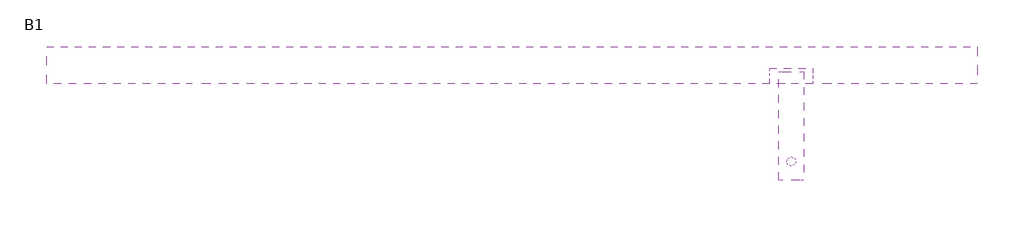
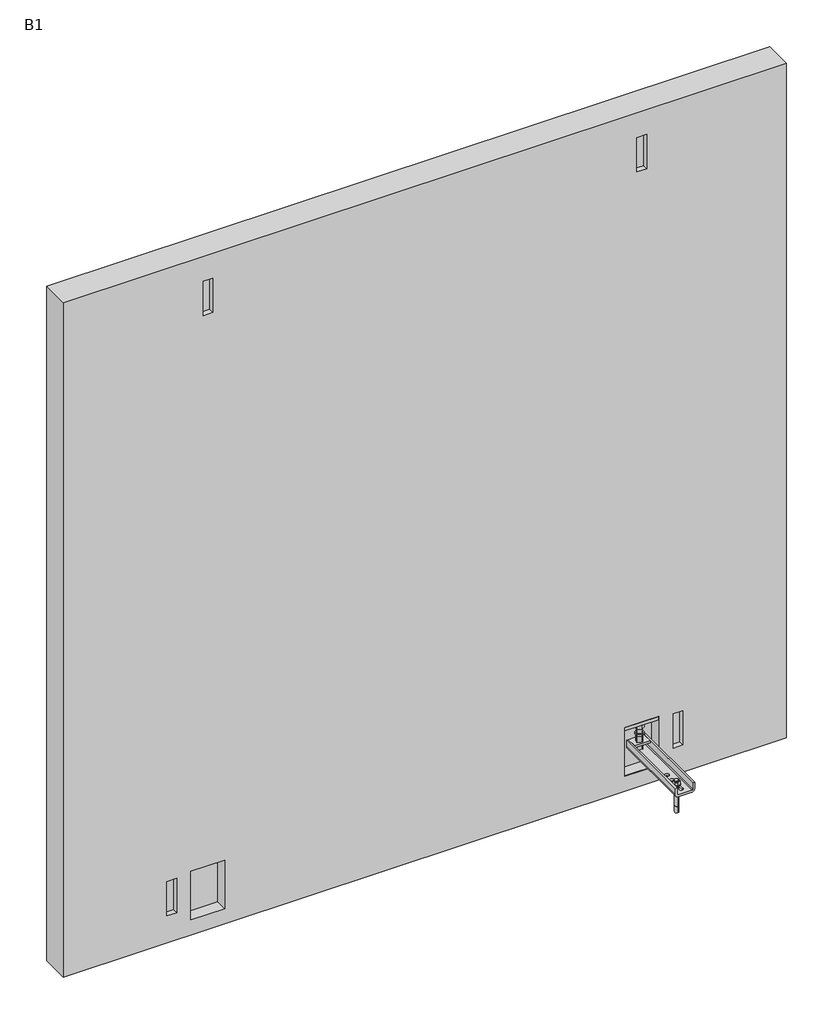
# One storey: 3 fasteners, 1 proxy.
"""IFC4 building model written with IfcOpenShell, lengths in millimetres."""

from ifc_helpers import new_model, si_unit, frame, origin, place, context, project, spatial, polyline, circle_curve, transform, mapped, element, save
from ifc_brep_helpers import plane_surface, cylinder_surface, revolved_surface, advanced_brep
from components import fastener_4d305c28, rec_aem16_140_aem16_140_c98ec31b, rec_mf45t_mf45t_64a75cb8

model = new_model("IFC4")

# Units and contexts
model_context = context("Model", 3, world=origin())
ifc_project = project(units=[si_unit("LENGTHUNIT", "METRE", prefix="MILLI")], contexts=[model_context])

# Site, building, storey
site = spatial("IfcSite", under=ifc_project)
building = spatial("IfcBuilding", under=site)
storey = spatial("IfcBuildingStorey", under=building, Name="B1", Elevation=-3000.0)

# Proxy
placement = place(None, origin())
element("IfcBuildingElementProxy", 1, Name="Panel Hormigón : Panel Hormigón", ObjectType="Panel Hormigón : Panel Hormigón", at=placement, inside=storey, context=model_context, shape_type="AdvancedBrep", body=[
    advanced_brep(
    [(4887.7202663, 16074.5302953, 2810.0), (4887.7202663, 15954.5302953, 2810.0), (7887.7202663, 15954.5302953, 2810.0), (7887.7202663, 16074.5302953, 2810.0), (4887.7202663, 16074.5302953, -150.0), (7887.7202663, 16074.5302953, -150.0), (7887.7202663, 15954.5302953, -150.0), (4887.7202663, 15954.5302953, -150.0), (5467.5702663, 15954.5302953, 2700.0), (5507.8702663, 15954.5302953, 2700.0), (5507.8702663, 15954.5302953, 2550.0), (5467.5702663, 15954.5302953, 2550.0), (7267.5702663, 15954.5302953, 2700.0), (7307.8702663, 15954.5302953, 2700.0), (7307.8702663, 15954.5302953, 2550.0), (7267.5702663, 15954.5302953, 2550.0), (5557.5892832, 15954.5302953, 129.5000155), (5557.5892832, 15954.5302953, -83.5), (5417.5892832, 15954.5302953, -83.5), (5417.5892832, 15954.5302953, 129.5000155), (7357.5892832, 15954.5302953, 129.5000155), (7357.5892832, 15954.5302953, -83.5), (7217.5892832, 15954.5302953, -83.5), (7217.5892832, 15954.5302953, 129.5000155), (5357.8702663, 15954.5302953, -30.0), (5317.5702663, 15954.5302953, -30.0), (5317.5702663, 15954.5302953, 120.0), (5357.8702663, 15954.5302953, 120.0), (7457.8702663, 15954.5302953, -30.0), (7417.5702663, 15954.5302953, -30.0), (7417.5702663, 15954.5302953, 120.0), (7457.8702663, 15954.5302953, 120.0), (5467.5702663, 15976.6051011, 2700.0), (5507.8702663, 15976.6051011, 2700.0), (5467.5702663, 15976.6051011, 2550.0), (5507.8702663, 15976.6051011, 2550.0), (7307.8702663, 15976.6051011, 2700.0), (7267.5702663, 15976.6051011, 2700.0), (7307.8702663, 15976.6051011, 2550.0), (7267.5702663, 15976.6051011, 2550.0), (5557.5892832, 15962.5302953, 137.5000155), (5557.5892832, 15997.5302953, 137.5000155), (5557.5892832, 15999.5302953, 139.5000155), (5557.5892832, 15999.5302953, 152.5000155), (5557.5892832, 16005.5302953, 152.5000155), (5557.5892832, 16005.5302953, 139.5000155), (5557.5892832, 15997.5302953, 131.5000155), (5557.5892832, 15981.9086657, 131.5000155), (5557.5892832, 16005.5302953, 93.5), (5557.5892832, 16005.5302953, -83.5), (5417.5892832, 16005.5302953, -83.5), (5417.5892832, 16005.5302953, 93.5), (5417.5892832, 15981.9086657, 131.5000155), (5417.5892832, 15997.5302953, 131.5000155), (5417.5892832, 16005.5302953, 139.5000155), (5417.5892832, 16005.5302953, 152.5000155), (5417.5892832, 15999.5302953, 152.5000155), (5417.5892832, 15999.5302953, 139.5000155), (5417.5892832, 15997.5302953, 137.5000155), (5417.5892832, 15962.5302953, 137.5000155), (7357.5892832, 15962.5302953, 137.5000155), (7357.5892832, 15997.5302953, 137.5000155), (7357.5892832, 15999.5302953, 139.5000155), (7357.5892832, 15999.5302953, 152.5000155), (7357.5892832, 16005.5302953, 152.5000155), (7357.5892832, 16005.5302953, 139.5000155), (7357.5892832, 15997.5302953, 131.5000155), (7357.5892832, 15981.9086657, 131.5000155), (7357.5892832, 16005.5302953, 93.5), (7357.5892832, 16005.5302953, -83.5), (7217.5892832, 16005.5302953, -83.5), (7217.5892832, 16005.5302953, 93.5), (7217.5892832, 15981.9086657, 131.5000155), (7217.5892832, 15997.5302953, 131.5000155), (7217.5892832, 16005.5302953, 139.5000155), (7217.5892832, 16005.5302953, 152.5000155), (7217.5892832, 15999.5302953, 152.5000155), (7217.5892832, 15999.5302953, 139.5000155), (7217.5892832, 15997.5302953, 137.5000155), (7217.5892832, 15962.5302953, 137.5000155), (5357.8702663, 15976.6051011, -30.0), (5317.5702663, 15976.6051011, -30.0), (5357.8702663, 15976.6051011, 120.0), (5317.5702663, 15976.6051011, 120.0), (7457.8702663, 15976.6051011, -30.0), (7417.5702663, 15976.6051011, -30.0), (7457.8702663, 15976.6051011, 120.0), (7417.5702663, 15976.6051011, 120.0)],
    [
        (0, 1),
        (1, 2),
        (2, 3),
        (3, 0),
        (4, 5),
        (5, 6),
        (6, 7),
        (7, 4),
        (0, 4),
        (7, 1),
        (6, 2),
        (8, 9),
        (9, 10),
        (10, 11),
        (11, 8),
        (12, 13),
        (13, 14),
        (14, 15),
        (15, 12),
        (16, 17),
        (17, 18),
        (18, 19),
        (19, 16),
        (20, 21),
        (21, 22),
        (22, 23),
        (23, 20),
        (24, 25),
        (25, 26),
        (26, 27),
        (27, 24),
        (28, 29),
        (29, 30),
        (30, 31),
        (31, 28),
        (5, 3),
        (32, 33),
        (33, 9),
        (8, 32),
        (34, 11),
        (10, 35),
        (35, 34),
        (34, 32),
        (33, 35),
        (36, 13),
        (12, 37),
        (37, 36),
        (38, 39),
        (39, 15),
        (14, 38),
        (36, 38),
        (39, 37),
        (16, 40, circle_curve(frame((5557.5892832, 15962.5302953, 129.5000155), z_axis=(-1.0, 0.0, 0.0), x_axis=(0.0, 1.0, 0.0)), 8.0)),
        (40, 41),
        (41, 42, circle_curve(frame((5557.5892832, 15997.5302953, 139.5000155), z_axis=(1.0, 0.0, 0.0), x_axis=(0.0, 1.0, 0.0)), 2.0)),
        (42, 43),
        (43, 44),
        (44, 45),
        (45, 46, circle_curve(frame((5557.5892832, 15997.5302953, 139.5000155), z_axis=(-1.0, 0.0, 0.0), x_axis=(0.0, 1.0, 0.0)), 8.0)),
        (46, 47),
        (47, 48),
        (48, 49),
        (49, 17),
        (18, 50),
        (50, 51),
        (51, 52),
        (52, 53),
        (53, 54, circle_curve(frame((5417.5892832, 15997.5302953, 139.5000155), z_axis=(1.0, 0.0, 0.0), x_axis=(0.0, 1.0, 0.0)), 8.0)),
        (54, 55),
        (55, 56),
        (56, 57),
        (57, 58, circle_curve(frame((5417.5892832, 15997.5302953, 139.5000155), z_axis=(-1.0, 0.0, 0.0), x_axis=(0.0, 1.0, 0.0)), 2.0)),
        (58, 59),
        (59, 19, circle_curve(frame((5417.5892832, 15962.5302953, 129.5000155), z_axis=(1.0, 0.0, 0.0), x_axis=(0.0, 1.0, 0.0)), 8.0)),
        (49, 50),
        (48, 51),
        (47, 52),
        (46, 53),
        (45, 54),
        (44, 55),
        (43, 56),
        (42, 57),
        (41, 58),
        (40, 59),
        (20, 60, circle_curve(frame((7357.5892832, 15962.5302953, 129.5000155), z_axis=(-1.0, 0.0, 0.0), x_axis=(0.0, 1.0, 0.0)), 8.0)),
        (60, 61),
        (61, 62, circle_curve(frame((7357.5892832, 15997.5302953, 139.5000155), z_axis=(1.0, 0.0, 0.0), x_axis=(0.0, 1.0, 0.0)), 2.0)),
        (62, 63),
        (63, 64),
        (64, 65),
        (65, 66, circle_curve(frame((7357.5892832, 15997.5302953, 139.5000155), z_axis=(-1.0, 0.0, 0.0), x_axis=(0.0, 1.0, 0.0)), 8.0)),
        (66, 67),
        (67, 68),
        (68, 69),
        (69, 21),
        (22, 70),
        (70, 71),
        (71, 72),
        (72, 73),
        (73, 74, circle_curve(frame((7217.5892832, 15997.5302953, 139.5000155), z_axis=(1.0, 0.0, 0.0), x_axis=(0.0, 1.0, 0.0)), 8.0)),
        (74, 75),
        (75, 76),
        (76, 77),
        (77, 78, circle_curve(frame((7217.5892832, 15997.5302953, 139.5000155), z_axis=(-1.0, 0.0, 0.0), x_axis=(0.0, 1.0, 0.0)), 2.0)),
        (78, 79),
        (79, 23, circle_curve(frame((7217.5892832, 15962.5302953, 129.5000155), z_axis=(1.0, 0.0, 0.0), x_axis=(0.0, 1.0, 0.0)), 8.0)),
        (69, 70),
        (68, 71),
        (67, 72),
        (66, 73),
        (65, 74),
        (64, 75),
        (63, 76),
        (62, 77),
        (61, 78),
        (60, 79),
        (80, 81),
        (81, 25),
        (24, 80),
        (82, 27),
        (26, 83),
        (83, 82),
        (82, 80),
        (81, 83),
        (84, 85),
        (85, 29),
        (28, 84),
        (86, 31),
        (30, 87),
        (87, 86),
        (86, 84),
        (85, 87),
    ],
    [
        plane_surface(frame((4887.7202663, 16074.5302953, 2810.0), z_axis=(0.0, 0.0, 1.0), x_axis=(0.0, -1.0, 0.0))),
        plane_surface(frame((4887.7202663, 16074.5302953, -150.0), z_axis=(0.0, 0.0, -1.0), x_axis=(0.0, 1.0, 0.0))),
        plane_surface(frame((4887.7202663, 16074.5302953, 2810.0), z_axis=(-1.0, 0.0, 0.0), x_axis=(0.0, 0.0, -1.0))),
        plane_surface(frame((4887.7202663, 15954.5302953, 2810.0), z_axis=(0.0, -1.0, 0.0), x_axis=(0.0, 0.0, -1.0))),
        plane_surface(frame((7887.7202663, 15954.5302953, 2810.0), z_axis=(1.0, 0.0, 0.0), x_axis=(0.0, 0.0, -1.0))),
        plane_surface(frame((7887.7202663, 16074.5302953, 2810.0), z_axis=(0.0, 1.0, 0.0), x_axis=(0.0, 0.0, -1.0))),
        plane_surface(frame((5467.5702663, 15971.6051011, 2700.0), z_axis=(0.0, 0.0, -1.0), x_axis=(0.0, -1.0, 0.0))),
        plane_surface(frame((5467.5702663, 15971.6051011, 2550.0), z_axis=(0.0, 0.0, 1.0), x_axis=(0.0, 1.0, 0.0))),
        plane_surface(frame((5467.5702663, 15976.6051011, 2700.0), z_axis=(1.0, 0.0, 0.0), x_axis=(0.0, 0.0, -1.0))),
        plane_surface(frame((5507.8702663, 15954.6051011, 2700.0), z_axis=(-1.0, 0.0, 0.0), x_axis=(0.0, 0.0, -1.0))),
        plane_surface(frame((5507.8702663, 15976.6051011, 2700.0), z_axis=(0.0, -1.0, 0.0), x_axis=(0.0, 0.0, -1.0))),
        plane_surface(frame((7307.8702663, 15971.6051011, 2700.0), z_axis=(0.0, 0.0, -1.0), x_axis=(0.0, -1.0, 0.0))),
        plane_surface(frame((7307.8702663, 15971.6051011, 2550.0), z_axis=(0.0, 0.0, 1.0), x_axis=(0.0, 1.0, 0.0))),
        plane_surface(frame((7307.8702663, 15976.6051011, 2700.0), z_axis=(-1.0, 0.0, 0.0), x_axis=(0.0, 0.0, -1.0))),
        plane_surface(frame((7267.5702663, 15954.6051011, 2700.0), z_axis=(1.0, 0.0, 0.0), x_axis=(0.0, 0.0, -1.0))),
        plane_surface(frame((7267.5702663, 15976.6051011, 2700.0), z_axis=(0.0, -1.0, 0.0), x_axis=(0.0, 0.0, -1.0))),
        plane_surface(frame((5557.5892832, 15954.5302953, -83.5), z_axis=(-1.0, 0.0, 0.0), x_axis=(0.0, 1.0, 0.0))),
        plane_surface(frame((5417.5892832, 15954.5302953, -83.5), z_axis=(1.0, 0.0, 0.0), x_axis=(0.0, -1.0, 0.0))),
        plane_surface(frame((5557.5892832, 15954.5302953, -83.5), z_axis=(0.0, 0.0, 1.0), x_axis=(-1.0, 0.0, 0.0))),
        plane_surface(frame((5557.5892832, 16005.5302953, -83.5), z_axis=(0.0, -1.0, 0.0), x_axis=(-1.0, 0.0, 0.0))),
        plane_surface(frame((5557.5892832, 16005.5302953, 93.5), z_axis=(0.0, -0.8492853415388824, -0.5279340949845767), x_axis=(-1.0, 0.0, 0.0))),
        plane_surface(frame((5557.5892832, 15981.9086657, 131.5000155), z_axis=(0.0, 0.0, 1.0), x_axis=(-1.0, 0.0, 0.0))),
        revolved_surface(polyline([(5557.5892832, 16005.5302953, 139.5000155), (5417.5892832, 16005.5302953, 139.5000155)]), (5417.5892832, 15997.5302953, 139.5000155), (1.0, 0.0, 0.0)),
        plane_surface(frame((5557.5892832, 16005.5302953, 139.5000155), z_axis=(0.0, -1.0, 0.0), x_axis=(-1.0, 0.0, 0.0))),
        plane_surface(frame((5557.5892832, 16005.5302953, 152.5000155), z_axis=(0.0, 0.0, -1.0), x_axis=(-1.0, 0.0, 0.0))),
        plane_surface(frame((5557.5892832, 15999.5302953, 152.5000155), z_axis=(0.0, 1.0, 0.0), x_axis=(-1.0, 0.0, 0.0))),
        cylinder_surface(frame((5417.5892832, 15997.5302953, 139.5000155), z_axis=(-1.0, 0.0, 0.0), x_axis=(0.0, 1.0, 0.0)), 2.0),
        plane_surface(frame((5557.5892832, 15997.5302953, 137.5000155), z_axis=(0.0, 0.0, -1.0), x_axis=(-1.0, 0.0, 0.0))),
        revolved_surface(polyline([(5557.5892832, 15970.5302953, 129.5000155), (5417.5892832, 15970.5302953, 129.5000155)]), (5417.5892832, 15962.5302953, 129.5000155), (1.0, 0.0, 0.0)),
        plane_surface(frame((7357.5892832, 15954.5302953, -83.5), z_axis=(-1.0, 0.0, 0.0), x_axis=(0.0, 1.0, 0.0))),
        plane_surface(frame((7217.5892832, 15954.5302953, -83.5), z_axis=(1.0, 0.0, 0.0), x_axis=(0.0, -1.0, 0.0))),
        plane_surface(frame((7357.5892832, 15954.5302953, -83.5), z_axis=(0.0, 0.0, 1.0), x_axis=(-1.0, 0.0, 0.0))),
        plane_surface(frame((7357.5892832, 16005.5302953, -83.5), z_axis=(0.0, -1.0, 0.0), x_axis=(-1.0, 0.0, 0.0))),
        plane_surface(frame((7357.5892832, 16005.5302953, 93.5), z_axis=(0.0, -0.8492853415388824, -0.5279340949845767), x_axis=(-1.0, 0.0, 0.0))),
        plane_surface(frame((7357.5892832, 15981.9086657, 131.5000155), z_axis=(0.0, 0.0, 1.0), x_axis=(-1.0, 0.0, 0.0))),
        revolved_surface(polyline([(7357.5892832, 16005.5302953, 139.5000155), (7217.5892832, 16005.5302953, 139.5000155)]), (7217.5892832, 15997.5302953, 139.5000155), (1.0, 0.0, 0.0)),
        plane_surface(frame((7357.5892832, 16005.5302953, 139.5000155), z_axis=(0.0, -1.0, 0.0), x_axis=(-1.0, 0.0, 0.0))),
        plane_surface(frame((7357.5892832, 16005.5302953, 152.5000155), z_axis=(0.0, 0.0, -1.0), x_axis=(-1.0, 0.0, 0.0))),
        plane_surface(frame((7357.5892832, 15999.5302953, 152.5000155), z_axis=(0.0, 1.0, 0.0), x_axis=(-1.0, 0.0, 0.0))),
        cylinder_surface(frame((7217.5892832, 15997.5302953, 139.5000155), z_axis=(-1.0, 0.0, 0.0), x_axis=(0.0, 1.0, 0.0)), 2.0),
        plane_surface(frame((7357.5892832, 15997.5302953, 137.5000155), z_axis=(0.0, 0.0, -1.0), x_axis=(-1.0, 0.0, 0.0))),
        revolved_surface(polyline([(7357.5892832, 15970.5302953, 129.5000155), (7217.5892832, 15970.5302953, 129.5000155)]), (7217.5892832, 15962.5302953, 129.5000155), (1.0, 0.0, 0.0)),
        plane_surface(frame((5357.8702663, 15971.6051011, -30.0), z_axis=(0.0, 0.0, 1.0), x_axis=(0.0, -1.0, 0.0))),
        plane_surface(frame((5357.8702663, 15971.6051011, 120.0), z_axis=(0.0, 0.0, -1.0), x_axis=(0.0, 1.0, 0.0))),
        plane_surface(frame((5357.8702663, 15976.6051011, -30.0), z_axis=(-1.0, 0.0, 0.0), x_axis=(0.0, 0.0, 1.0))),
        plane_surface(frame((5317.5702663, 15954.6051011, -30.0), z_axis=(1.0, 0.0, 0.0), x_axis=(0.0, 0.0, 1.0))),
        plane_surface(frame((5317.5702663, 15976.6051011, -30.0), z_axis=(0.0, -1.0, 0.0), x_axis=(0.0, 0.0, 1.0))),
        plane_surface(frame((7457.8702663, 15971.6051011, -30.0), z_axis=(0.0, 0.0, 1.0), x_axis=(0.0, -1.0, 0.0))),
        plane_surface(frame((7457.8702663, 15971.6051011, 120.0), z_axis=(0.0, 0.0, -1.0), x_axis=(0.0, 1.0, 0.0))),
        plane_surface(frame((7457.8702663, 15976.6051011, -30.0), z_axis=(-1.0, 0.0, 0.0), x_axis=(0.0, 0.0, 1.0))),
        plane_surface(frame((7417.5702663, 15954.6051011, -30.0), z_axis=(1.0, 0.0, 0.0), x_axis=(0.0, 0.0, 1.0))),
        plane_surface(frame((7417.5702663, 15976.6051011, -30.0), z_axis=(0.0, -1.0, 0.0), x_axis=(0.0, 0.0, 1.0))),
    ],
    [
        (0, [[1, 2, 3, 4]]),
        (1, [[5, 6, 7, 8]]),
        (2, [[-1, 9, -8, 10]]),
        (3, [[-2, -10, -7, 11], [12, 13, 14, 15], [16, 17, 18, 19], [20, 21, 22, 23], [24, 25, 26, 27], [28, 29, 30, 31], [32, 33, 34, 35]]),
        (4, [[-3, -11, -6, 36]]),
        (5, [[-4, -36, -5, -9]]),
        (6, [[37, 38, -12, 39]]),
        (7, [[40, -14, 41, 42]]),
        (8, [[-39, -15, -40, 43]]),
        (9, [[-38, 44, -41, -13]]),
        (10, [[-37, -43, -42, -44]]),
        (11, [[45, -16, 46, 47]]),
        (12, [[48, 49, -18, 50]]),
        (13, [[-45, 51, -50, -17]]),
        (14, [[-46, -19, -49, 52]]),
        (15, [[-47, -52, -48, -51]]),
        (16, [[53, 54, 55, 56, 57, 58, 59, 60, 61, 62, 63, -20]]),
        (17, [[64, 65, 66, 67, 68, 69, 70, 71, 72, 73, 74, -22]]),
        (18, [[-63, 75, -64, -21]]),
        (19, [[-62, 76, -65, -75]]),
        (20, [[-61, 77, -66, -76]]),
        (21, [[-60, 78, -67, -77]]),
        (22, [[-59, 79, -68, -78]]),
        (23, [[-58, 80, -69, -79]]),
        (24, [[-57, 81, -70, -80]]),
        (25, [[-56, 82, -71, -81]]),
        (26, [[-55, 83, -72, -82]]),
        (27, [[-54, 84, -73, -83]]),
        (28, [[-53, -23, -74, -84]]),
        (29, [[85, 86, 87, 88, 89, 90, 91, 92, 93, 94, 95, -24]]),
        (30, [[96, 97, 98, 99, 100, 101, 102, 103, 104, 105, 106, -26]]),
        (31, [[-95, 107, -96, -25]]),
        (32, [[-94, 108, -97, -107]]),
        (33, [[-93, 109, -98, -108]]),
        (34, [[-92, 110, -99, -109]]),
        (35, [[-91, 111, -100, -110]]),
        (36, [[-90, 112, -101, -111]]),
        (37, [[-89, 113, -102, -112]]),
        (38, [[-88, 114, -103, -113]]),
        (39, [[-87, 115, -104, -114]]),
        (40, [[-86, 116, -105, -115]]),
        (41, [[-85, -27, -106, -116]]),
        (42, [[117, 118, -28, 119]]),
        (43, [[120, -30, 121, 122]]),
        (44, [[-119, -31, -120, 123]]),
        (45, [[-118, 124, -121, -29]]),
        (46, [[-117, -123, -122, -124]]),
        (47, [[125, 126, -32, 127]]),
        (48, [[128, -34, 129, 130]]),
        (49, [[-127, -35, -128, 131]]),
        (50, [[-126, 132, -129, -33]]),
        (51, [[-125, -131, -130, -132]]),
    ],
),
])

# Fasteners
fastener_shape = fastener_4d305c28(model_context)
element("IfcFastener", 2, ObjectType="REC-CMFPR-2 : CMFPR-2", at=placement, inside=storey, context=model_context, shape_type="MappedRepresentation", body=[
    mapped(fastener_shape, transform((7287.5892832, 15954.5302953, -83.5), x_axis=(0.0, 0.0, -1.0), y_axis=(1.0, 0.0, 0.0), z_axis=(0.0, -1.0, 0.0))),
])
rec_aem16_140_aem16_140_shape = rec_aem16_140_aem16_140_c98ec31b(model_context)
element("IfcFastener", 3, ObjectType="REC-AEM16-140 : AEM16-140", at=placement, inside=storey, context=model_context, shape_type="MappedRepresentation", body=[
    mapped(rec_aem16_140_aem16_140_shape, transform((7287.5892832, 15704.5302953, 8.0401188), x_axis=(0.0, 1.0, 0.0), y_axis=(-1.0, 0.0, -1.0642456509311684e-12), z_axis=(-1.0642456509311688e-12, 0.0, 1.0))),
])
rec_mf45t_mf45t_shape = rec_mf45t_mf45t_64a75cb8(model_context)
element("IfcFastener", 4, ObjectType="REC-MF45T : MF45T", at=placement, inside=storey, context=model_context, shape_type="MappedRepresentation", body=[
    mapped(rec_mf45t_mf45t_shape, transform((7287.5892832, 15994.5302953, 0.0401188), x_axis=(1.0, 0.0, 0.0), y_axis=(0.0, 0.0, 1.0), z_axis=(0.0, -1.0, 0.0))),
])

save(model, "model.ifc")
